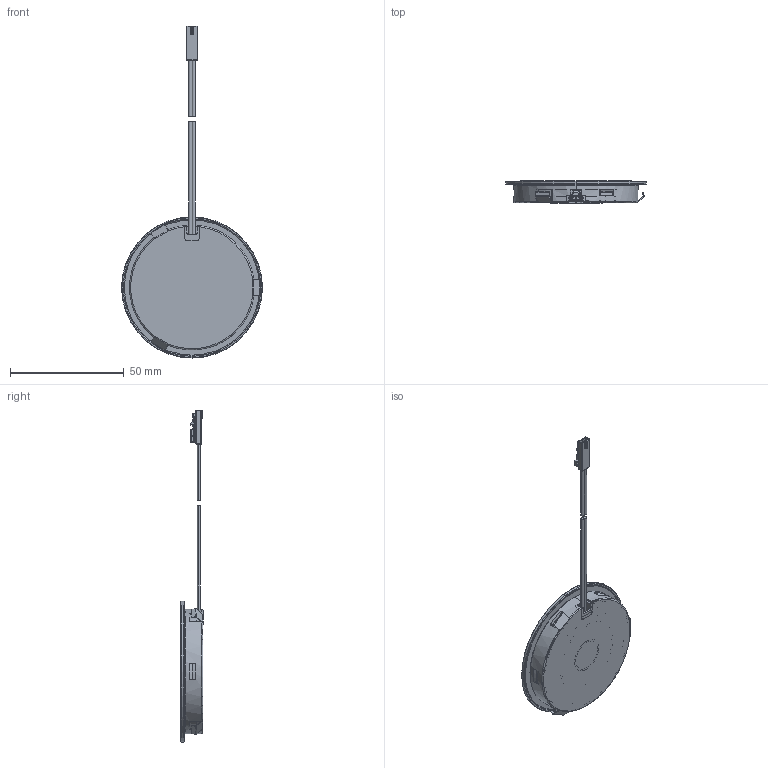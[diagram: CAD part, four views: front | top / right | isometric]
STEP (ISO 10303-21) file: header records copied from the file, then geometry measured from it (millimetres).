
FILE_DESCRIPTION (( 'STEP AP203' ), '1' );
FILE_NAME ('LitePanel_58_24.STEP', '2024-12-02T05:43:19', ( '' ), ( '' ), 'SwSTEP 2.0', 'SolidWorks 2023', '' );
FILE_SCHEMA (( 'CONFIG_CONTROL_DESIGN' ));
Length unit declared in the file: millimetre
Products named in the file (10): 2614602_Streuscheibe; LED_Stecker_M1_MG_pdmSCHROTT_l= 25mm; LitePanel_58_PCB_mw²; LitePanel_58_24; LitePanel_Leitung_LitePanel 58; 2614604_Reflektionskörper; 2614603_Federkörper; 2614509_26.145.09 - EDS; 2614601_mattierte_Scheibe; LitePanel_Reflektionsscheibe_LitePanel 58
Assembly tree (9 placements, depth 2):
  LitePanel_58_24
    2614509_26.145.09 - EDS
    2614601_mattierte_Scheibe
    2614602_Streuscheibe
    2614603_Federkörper
    2614604_Reflektionskörper
    LitePanel_58_PCB_mw²
    LitePanel_Leitung_LitePanel 58
    LED_Stecker_M1_MG_pdmSCHROTT_l= 25mm
    LitePanel_Reflektionsscheibe_LitePanel 58
Bounding box: 62 x 9.7 x 146 mm (x, y, z)
Volume: 18994.3 mm3; surface area: 35512.6 mm2
Topology: 55 solids, 55 shells, 839 faces, 1966 edges, 1197 vertices
Faces by surface type: plane 353, cylinder 345, torus 88, sphere 31, bspline 13, cone 9
Entity records: 25217 total; most frequent: CARTESIAN_POINT 4754, DIRECTION 4364, ORIENTED_EDGE 3852, EDGE_CURVE 1926, AXIS2_PLACEMENT_3D 1680, VERTEX_POINT 1197, LINE 1004, VECTOR 1004
